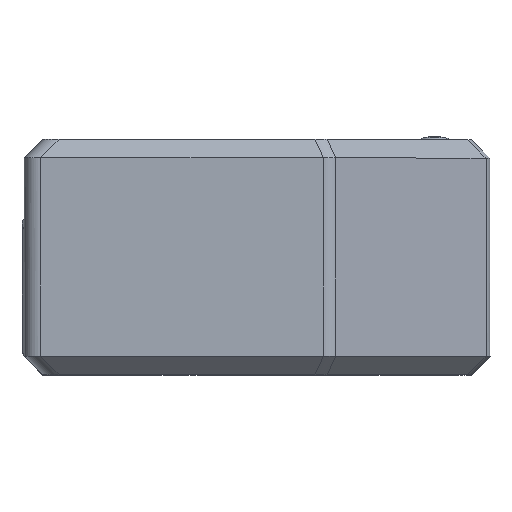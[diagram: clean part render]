
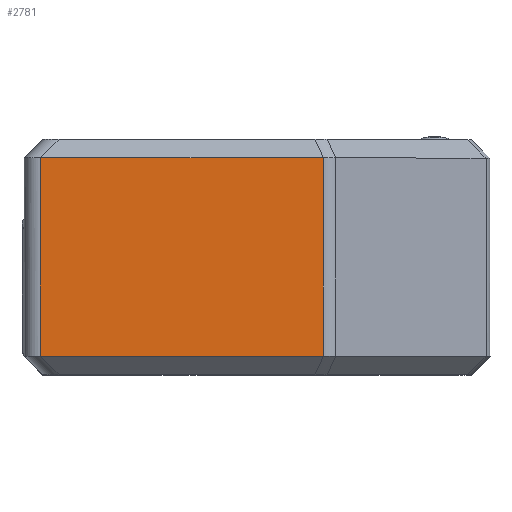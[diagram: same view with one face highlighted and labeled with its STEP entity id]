
A CAD part, top view. The second image highlights one B-rep face of the part: STEP entity #2781.
In plain terms, the highlighted planar face has unit normal (0, 0, 1) as drawn and (1, 0, 0) by its records, which use the part's own axes.
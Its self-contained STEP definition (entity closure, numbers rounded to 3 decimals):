
#247 = LINE ( 'NONE', #1439, #4603 ) ;
#277 = VERTEX_POINT ( 'NONE', #3474 ) ;
#309 = CARTESIAN_POINT ( 'NONE',  ( 111.7, -5.727, -4. ) ) ;
#345 = EDGE_LOOP ( 'NONE', ( #2505, #3920, #5312, #3283, #416, #1481 ) ) ;
#416 = ORIENTED_EDGE ( 'NONE', *, *, #4019, .T. ) ;
#537 = PLANE ( 'NONE',  #4042 ) ;
#599 = CARTESIAN_POINT ( 'NONE',  ( 111.7, -5.743, 39. ) ) ;
#741 = VECTOR ( 'NONE', #2210, 1000. ) ;
#877 = CARTESIAN_POINT ( 'NONE',  ( 111.7, -5.727, 39. ) ) ;
#1083 = CARTESIAN_POINT ( 'NONE',  ( 111.7, -67.088, 39. ) ) ;
#1265 = CARTESIAN_POINT ( 'NONE',  ( 111.7, -67.1, 39. ) ) ;
#1439 = CARTESIAN_POINT ( 'NONE',  ( 111.7, -67.1, 43. ) ) ;
#1445 = DIRECTION ( 'NONE',  ( 0., 0., 1. ) ) ;
#1473 = VERTEX_POINT ( 'NONE', #1265 ) ;
#1481 = ORIENTED_EDGE ( 'NONE', *, *, #1572, .T. ) ;
#1572 = EDGE_CURVE ( 'NONE', #3719, #3424, #4789, .T. ) ;
#1752 = CARTESIAN_POINT ( 'NONE',  ( 111.7, -5.738, 39. ) ) ;
#1867 = CARTESIAN_POINT ( 'NONE',  ( 111.7, -67.1, 43. ) ) ;
#1870 = LINE ( 'NONE', #5220, #741 ) ;
#1990 = EDGE_CURVE ( 'NONE', #4787, #4710, #5533, .T. ) ;
#2210 = DIRECTION ( 'NONE',  ( 0., 0., -1. ) ) ;
#2310 = CARTESIAN_POINT ( 'NONE',  ( 111.7, -70.6, 39. ) ) ;
#2502 = CARTESIAN_POINT ( 'NONE',  ( 111.7, -67.1, -4. ) ) ;
#2505 = ORIENTED_EDGE ( 'NONE', *, *, #4566, .F. ) ;
#2594 = CARTESIAN_POINT ( 'NONE',  ( 111.7, -5.733, 39. ) ) ;
#2781 = ADVANCED_FACE ( 'NONE', ( #3079 ), #537, .F. ) ;
#3057 = CARTESIAN_POINT ( 'NONE',  ( 111.7, -5.743, 39. ) ) ;
#3079 = FACE_OUTER_BOUND ( 'NONE', #345, .T. ) ;
#3103 =( BOUNDED_CURVE ( )  B_SPLINE_CURVE ( 3, ( #4018, #3235, #1083, #4457 ),
 .UNSPECIFIED., .F., .T. ) 
 B_SPLINE_CURVE_WITH_KNOTS ( ( 4, 4 ),
 ( 0.524, 0.529 ),
 .UNSPECIFIED. ) 
 CURVE ( )  GEOMETRIC_REPRESENTATION_ITEM ( )  RATIONAL_B_SPLINE_CURVE ( ( 1., 1., 1., 1. ) ) 
 REPRESENTATION_ITEM ( '' )  );
#3223 = DIRECTION ( 'NONE',  ( 0., 0., -1. ) ) ;
#3235 = CARTESIAN_POINT ( 'NONE',  ( 111.7, -67.076, 39. ) ) ;
#3265 = DIRECTION ( 'NONE',  ( 0., 1., 0. ) ) ;
#3278 = EDGE_CURVE ( 'NONE', #277, #1473, #3103, .T. ) ;
#3283 = ORIENTED_EDGE ( 'NONE', *, *, #3278, .T. ) ;
#3424 = VERTEX_POINT ( 'NONE', #309 ) ;
#3472 = CARTESIAN_POINT ( 'NONE',  ( 111.7, -5.727, 39. ) ) ;
#3474 = CARTESIAN_POINT ( 'NONE',  ( 111.7, -67.064, 39. ) ) ;
#3719 = VERTEX_POINT ( 'NONE', #4506 ) ;
#3792 = EDGE_CURVE ( 'NONE', #277, #4710, #4864, .T. ) ;
#3850 = VECTOR ( 'NONE', #5063, 1000. ) ;
#3920 = ORIENTED_EDGE ( 'NONE', *, *, #1990, .T. ) ;
#3991 = VECTOR ( 'NONE', #3265, 1000. ) ;
#4018 = CARTESIAN_POINT ( 'NONE',  ( 111.7, -67.064, 39. ) ) ;
#4019 = EDGE_CURVE ( 'NONE', #1473, #3719, #247, .T. ) ;
#4042 = AXIS2_PLACEMENT_3D ( 'NONE', #1867, #5313, #1445 ) ;
#4457 = CARTESIAN_POINT ( 'NONE',  ( 111.7, -67.1, 39. ) ) ;
#4506 = CARTESIAN_POINT ( 'NONE',  ( 111.7, -67.1, -4. ) ) ;
#4566 = EDGE_CURVE ( 'NONE', #4787, #3424, #1870, .T. ) ;
#4603 = VECTOR ( 'NONE', #3223, 1000. ) ;
#4710 = VERTEX_POINT ( 'NONE', #599 ) ;
#4787 = VERTEX_POINT ( 'NONE', #3472 ) ;
#4789 = LINE ( 'NONE', #2502, #3850 ) ;
#4864 = LINE ( 'NONE', #2310, #3991 ) ;
#5063 = DIRECTION ( 'NONE',  ( 0., 1., 0. ) ) ;
#5220 = CARTESIAN_POINT ( 'NONE',  ( 111.7, -5.727, 43. ) ) ;
#5312 = ORIENTED_EDGE ( 'NONE', *, *, #3792, .F. ) ;
#5313 = DIRECTION ( 'NONE',  ( -1., 0., 0. ) ) ;
#5533 =( BOUNDED_CURVE ( )  B_SPLINE_CURVE ( 3, ( #877, #2594, #1752, #3057 ),
 .UNSPECIFIED., .F., .T. ) 
 B_SPLINE_CURVE_WITH_KNOTS ( ( 4, 4 ),
 ( 2.84, 2.843 ),
 .UNSPECIFIED. ) 
 CURVE ( )  GEOMETRIC_REPRESENTATION_ITEM ( )  RATIONAL_B_SPLINE_CURVE ( ( 1., 1., 1., 1. ) ) 
 REPRESENTATION_ITEM ( '' )  );
